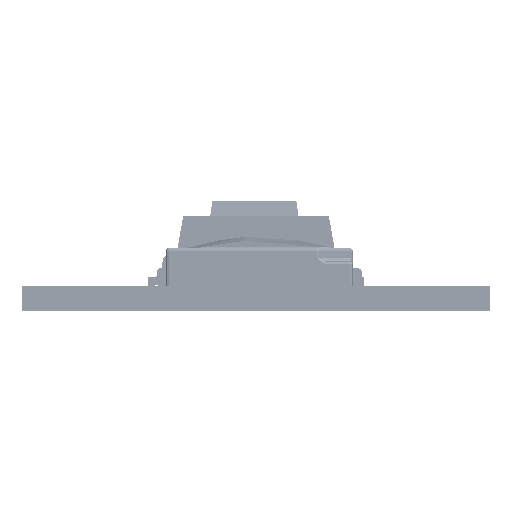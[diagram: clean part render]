
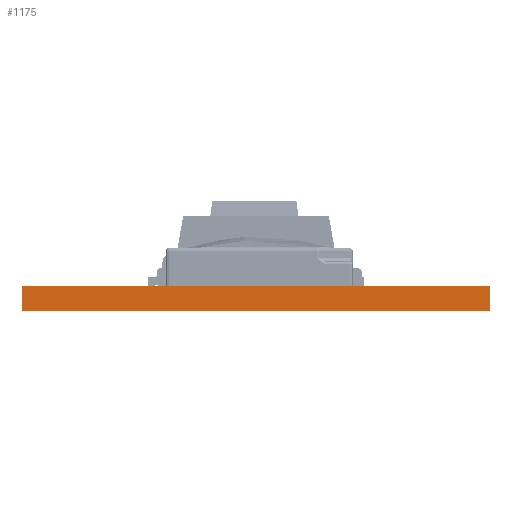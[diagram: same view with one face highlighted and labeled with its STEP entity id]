
A CAD part, left-side view. The second image highlights one B-rep face of the part: STEP entity #1175.
In plain terms, the highlighted planar face has unit normal (-1, 0, 0).
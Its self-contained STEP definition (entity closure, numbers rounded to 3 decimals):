
#912 = EDGE_CURVE('',#913,#915,#917,.T.);
#913 = VERTEX_POINT('',#914);
#914 = CARTESIAN_POINT('',(0.,-4.,0.));
#915 = VERTEX_POINT('',#916);
#916 = CARTESIAN_POINT('',(0.,-4.,0.425));
#917 = SURFACE_CURVE('',#918,(#922,#934),.PCURVE_S1.);
#918 = LINE('',#919,#920);
#919 = CARTESIAN_POINT('',(0.,-4.,0.));
#920 = VECTOR('',#921,1.);
#921 = DIRECTION('',(0.,0.,1.));
#922 = PCURVE('',#923,#928);
#923 = PLANE('',#924);
#924 = AXIS2_PLACEMENT_3D('',#925,#926,#927);
#925 = CARTESIAN_POINT('',(0.,-4.,0.));
#926 = DIRECTION('',(0.,1.,0.));
#927 = DIRECTION('',(1.,0.,0.));
#928 = DEFINITIONAL_REPRESENTATION('',(#929),#933);
#929 = LINE('',#930,#931);
#930 = CARTESIAN_POINT('',(0.,0.));
#931 = VECTOR('',#932,1.);
#932 = DIRECTION('',(0.,-1.));
#933 = ( GEOMETRIC_REPRESENTATION_CONTEXT(2) 
PARAMETRIC_REPRESENTATION_CONTEXT() REPRESENTATION_CONTEXT('2D SPACE',''
  ) );
#934 = PCURVE('',#935,#940);
#935 = PLANE('',#936);
#936 = AXIS2_PLACEMENT_3D('',#937,#938,#939);
#937 = CARTESIAN_POINT('',(0.,4.,0.));
#938 = DIRECTION('',(1.,0.,0.));
#939 = DIRECTION('',(0.,-1.,0.));
#940 = DEFINITIONAL_REPRESENTATION('',(#941),#945);
#941 = LINE('',#942,#943);
#942 = CARTESIAN_POINT('',(8.,0.));
#943 = VECTOR('',#944,1.);
#944 = DIRECTION('',(0.,-1.));
#945 = ( GEOMETRIC_REPRESENTATION_CONTEXT(2) 
PARAMETRIC_REPRESENTATION_CONTEXT() REPRESENTATION_CONTEXT('2D SPACE',''
  ) );
#963 = PLANE('',#964);
#964 = AXIS2_PLACEMENT_3D('',#965,#966,#967);
#965 = CARTESIAN_POINT('',(0.,-4.,0.425));
#966 = DIRECTION('',(0.,0.,-1.));
#967 = DIRECTION('',(-1.,0.,0.));
#1017 = PLANE('',#1018);
#1018 = AXIS2_PLACEMENT_3D('',#1019,#1020,#1021);
#1019 = CARTESIAN_POINT('',(0.,-4.,0.));
#1020 = DIRECTION('',(0.,0.,-1.));
#1021 = DIRECTION('',(-1.,0.,0.));
#1072 = PLANE('',#1073);
#1073 = AXIS2_PLACEMENT_3D('',#1074,#1075,#1076);
#1074 = CARTESIAN_POINT('',(1000.,4.,0.));
#1075 = DIRECTION('',(0.,-1.,0.));
#1076 = DIRECTION('',(-1.,0.,0.));
#1110 = VERTEX_POINT('',#1111);
#1111 = CARTESIAN_POINT('',(0.,4.,0.425));
#1132 = EDGE_CURVE('',#1133,#1110,#1135,.T.);
#1133 = VERTEX_POINT('',#1134);
#1134 = CARTESIAN_POINT('',(0.,4.,0.));
#1135 = SURFACE_CURVE('',#1136,(#1140,#1147),.PCURVE_S1.);
#1136 = LINE('',#1137,#1138);
#1137 = CARTESIAN_POINT('',(0.,4.,0.));
#1138 = VECTOR('',#1139,1.);
#1139 = DIRECTION('',(0.,0.,1.));
#1140 = PCURVE('',#1072,#1141);
#1141 = DEFINITIONAL_REPRESENTATION('',(#1142),#1146);
#1142 = LINE('',#1143,#1144);
#1143 = CARTESIAN_POINT('',(1000.,0.));
#1144 = VECTOR('',#1145,1.);
#1145 = DIRECTION('',(0.,-1.));
#1146 = ( GEOMETRIC_REPRESENTATION_CONTEXT(2) 
PARAMETRIC_REPRESENTATION_CONTEXT() REPRESENTATION_CONTEXT('2D SPACE',''
  ) );
#1147 = PCURVE('',#935,#1148);
#1148 = DEFINITIONAL_REPRESENTATION('',(#1149),#1153);
#1149 = LINE('',#1150,#1151);
#1150 = CARTESIAN_POINT('',(0.,0.));
#1151 = VECTOR('',#1152,1.);
#1152 = DIRECTION('',(0.,-1.));
#1153 = ( GEOMETRIC_REPRESENTATION_CONTEXT(2) 
PARAMETRIC_REPRESENTATION_CONTEXT() REPRESENTATION_CONTEXT('2D SPACE',''
  ) );
#1175 = ADVANCED_FACE('',(#1176),#935,.F.);
#1176 = FACE_BOUND('',#1177,.F.);
#1177 = EDGE_LOOP('',(#1178,#1179,#1200,#1201));
#1178 = ORIENTED_EDGE('',*,*,#1132,.T.);
#1179 = ORIENTED_EDGE('',*,*,#1180,.T.);
#1180 = EDGE_CURVE('',#1110,#915,#1181,.T.);
#1181 = SURFACE_CURVE('',#1182,(#1186,#1193),.PCURVE_S1.);
#1182 = LINE('',#1183,#1184);
#1183 = CARTESIAN_POINT('',(0.,4.,0.425));
#1184 = VECTOR('',#1185,1.);
#1185 = DIRECTION('',(0.,-1.,0.));
#1186 = PCURVE('',#935,#1187);
#1187 = DEFINITIONAL_REPRESENTATION('',(#1188),#1192);
#1188 = LINE('',#1189,#1190);
#1189 = CARTESIAN_POINT('',(0.,-0.425));
#1190 = VECTOR('',#1191,1.);
#1191 = DIRECTION('',(1.,0.));
#1192 = ( GEOMETRIC_REPRESENTATION_CONTEXT(2) 
PARAMETRIC_REPRESENTATION_CONTEXT() REPRESENTATION_CONTEXT('2D SPACE',''
  ) );
#1193 = PCURVE('',#963,#1194);
#1194 = DEFINITIONAL_REPRESENTATION('',(#1195),#1199);
#1195 = LINE('',#1196,#1197);
#1196 = CARTESIAN_POINT('',(0.,8.));
#1197 = VECTOR('',#1198,1.);
#1198 = DIRECTION('',(0.,-1.));
#1199 = ( GEOMETRIC_REPRESENTATION_CONTEXT(2) 
PARAMETRIC_REPRESENTATION_CONTEXT() REPRESENTATION_CONTEXT('2D SPACE',''
  ) );
#1200 = ORIENTED_EDGE('',*,*,#912,.F.);
#1201 = ORIENTED_EDGE('',*,*,#1202,.F.);
#1202 = EDGE_CURVE('',#1133,#913,#1203,.T.);
#1203 = SURFACE_CURVE('',#1204,(#1208,#1215),.PCURVE_S1.);
#1204 = LINE('',#1205,#1206);
#1205 = CARTESIAN_POINT('',(0.,4.,0.));
#1206 = VECTOR('',#1207,1.);
#1207 = DIRECTION('',(0.,-1.,0.));
#1208 = PCURVE('',#935,#1209);
#1209 = DEFINITIONAL_REPRESENTATION('',(#1210),#1214);
#1210 = LINE('',#1211,#1212);
#1211 = CARTESIAN_POINT('',(0.,0.));
#1212 = VECTOR('',#1213,1.);
#1213 = DIRECTION('',(1.,0.));
#1214 = ( GEOMETRIC_REPRESENTATION_CONTEXT(2) 
PARAMETRIC_REPRESENTATION_CONTEXT() REPRESENTATION_CONTEXT('2D SPACE',''
  ) );
#1215 = PCURVE('',#1017,#1216);
#1216 = DEFINITIONAL_REPRESENTATION('',(#1217),#1221);
#1217 = LINE('',#1218,#1219);
#1218 = CARTESIAN_POINT('',(0.,8.));
#1219 = VECTOR('',#1220,1.);
#1220 = DIRECTION('',(0.,-1.));
#1221 = ( GEOMETRIC_REPRESENTATION_CONTEXT(2) 
PARAMETRIC_REPRESENTATION_CONTEXT() REPRESENTATION_CONTEXT('2D SPACE',''
  ) );
